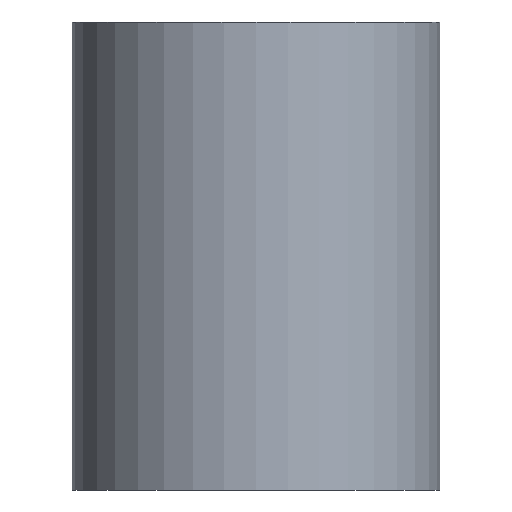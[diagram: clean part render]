
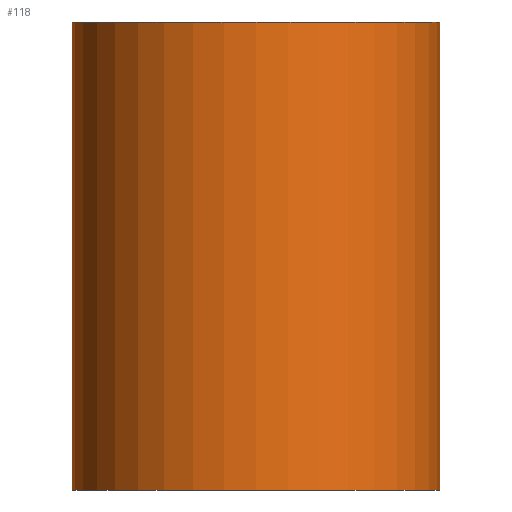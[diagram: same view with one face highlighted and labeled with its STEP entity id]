
A CAD part, front view. The second image highlights one B-rep face of the part: STEP entity #118.
In plain terms, the highlighted cylindrical face has radius 55 mm (diameter 110 mm), a partial arc.
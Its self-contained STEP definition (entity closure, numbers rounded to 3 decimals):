
#100=CYLINDRICAL_SURFACE('',#199,55.);
#104=FACE_OUTER_BOUND('',#132,.T.);
#107=LINE('',#257,#111);
#108=LINE('',#258,#112);
#111=VECTOR('',#228,1.);
#112=VECTOR('',#229,1.);
#118=ADVANCED_FACE('',(#104),#100,.T.);
#132=EDGE_LOOP('',(#153,#154,#155,#156));
#153=ORIENTED_EDGE('',*,*,#175,.F.);
#154=ORIENTED_EDGE('',*,*,#174,.T.);
#155=ORIENTED_EDGE('',*,*,#176,.T.);
#156=ORIENTED_EDGE('',*,*,#165,.F.);
#157=VERTEX_POINT('',#236);
#158=VERTEX_POINT('',#237);
#163=VERTEX_POINT('',#253);
#164=VERTEX_POINT('',#254);
#165=EDGE_CURVE('',#157,#158,#177,.T.);
#174=EDGE_CURVE('',#164,#163,#184,.T.);
#175=EDGE_CURVE('',#164,#157,#107,.T.);
#176=EDGE_CURVE('',#163,#158,#108,.T.);
#177=CIRCLE('',#186,55.);
#184=CIRCLE('',#196,55.);
#186=AXIS2_PLACEMENT_3D('',#235,#202,#203);
#196=AXIS2_PLACEMENT_3D('',#255,#224,#225);
#199=AXIS2_PLACEMENT_3D('',#260,#232,#233);
#202=DIRECTION('',(0.,0.,1.));
#203=DIRECTION('',(0.,1.,0.));
#224=DIRECTION('',(0.,0.,1.));
#225=DIRECTION('',(0.,1.,0.));
#228=DIRECTION('',(0.,0.,1.));
#229=DIRECTION('',(0.,0.,1.));
#232=DIRECTION('',(0.,0.,1.));
#233=DIRECTION('',(0.,-1.,0.));
#235=CARTESIAN_POINT('',(0.,0.,140.));
#236=CARTESIAN_POINT('',(-55.,0.,140.));
#237=CARTESIAN_POINT('',(55.,0.,140.));
#253=CARTESIAN_POINT('',(55.,0.,0.));
#254=CARTESIAN_POINT('',(-55.,0.,0.));
#255=CARTESIAN_POINT('',(0.,0.,0.));
#257=CARTESIAN_POINT('',(-55.,0.,140.));
#258=CARTESIAN_POINT('',(55.,0.,140.));
#260=CARTESIAN_POINT('',(0.,0.,0.));
